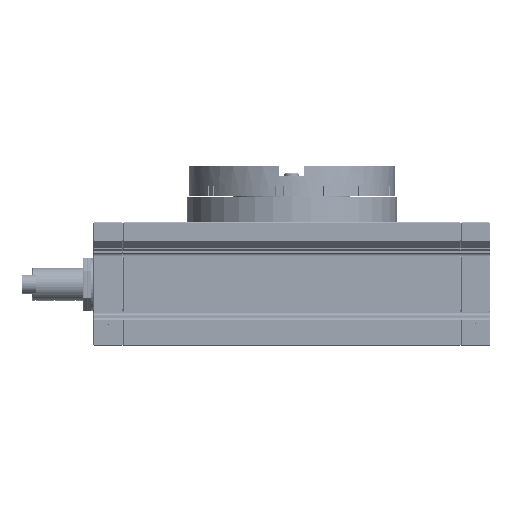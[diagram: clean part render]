
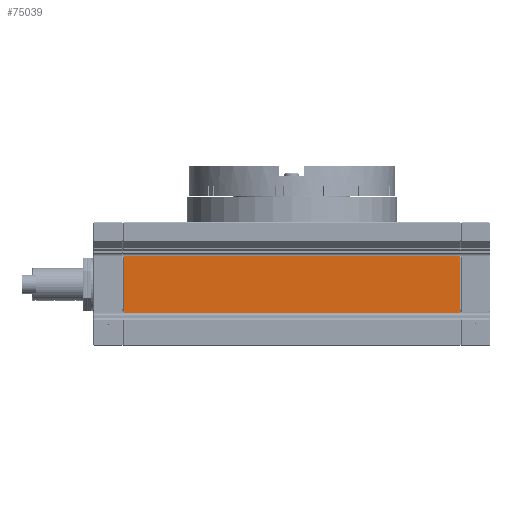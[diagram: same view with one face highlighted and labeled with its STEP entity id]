
A CAD part, front view. The second image highlights one B-rep face of the part: STEP entity #75039.
In plain terms, the highlighted planar face has unit normal (0, -1, 0).
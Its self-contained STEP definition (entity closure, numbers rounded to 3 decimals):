
#74976 = EDGE_LOOP ( 'NONE', ( #75045, #75085, #75083, #75076 ) ) ;
#75039 = ADVANCED_FACE ( 'NONE', ( #175203 ), #175208, .F. ) ;
#75045 = ORIENTED_EDGE ( 'NONE', *, *, #75074, .T. ) ;
#75074 = EDGE_CURVE ( 'NONE', #75078, #75082, #175256, .T. ) ;
#75076 = ORIENTED_EDGE ( 'NONE', *, *, #75093, .T. ) ;
#75078 = VERTEX_POINT ( 'NONE', #175246 ) ;
#75079 = VERTEX_POINT ( 'NONE', #175261 ) ;
#75082 = VERTEX_POINT ( 'NONE', #175248 ) ;
#75083 = ORIENTED_EDGE ( 'NONE', *, *, #75086, .F. ) ;
#75085 = ORIENTED_EDGE ( 'NONE', *, *, #75087, .T. ) ;
#75086 = EDGE_CURVE ( 'NONE', #75089, #75079, #175303, .T. ) ;
#75087 = EDGE_CURVE ( 'NONE', #75082, #75079, #175284, .T. ) ;
#75089 = VERTEX_POINT ( 'NONE', #175247 ) ;
#75093 = EDGE_CURVE ( 'NONE', #75089, #75078, #175343, .T. ) ;
#175186 = DIRECTION ( 'NONE',  ( 0., 0., 1. ) ) ;
#175190 = AXIS2_PLACEMENT_3D ( 'NONE', #175206, #175209, #175186 ) ;
#175203 = FACE_OUTER_BOUND ( 'NONE', #74976, .T. ) ;
#175206 = CARTESIAN_POINT ( 'NONE',  ( 161., 3.5, 46.8 ) ) ;
#175208 = PLANE ( 'NONE',  #175190 ) ;
#175209 = DIRECTION ( 'NONE',  ( 0., 1., 0. ) ) ;
#175246 = CARTESIAN_POINT ( 'NONE',  ( 0.5, 3.5, 16. ) ) ;
#175247 = CARTESIAN_POINT ( 'NONE',  ( 0.5, 3.5, 43. ) ) ;
#175248 = CARTESIAN_POINT ( 'NONE',  ( 160.5, 3.5, 16. ) ) ;
#175253 = DIRECTION ( 'NONE',  ( 1., 0., 0. ) ) ;
#175254 = VECTOR ( 'NONE', #175253, 1000. ) ;
#175255 = CARTESIAN_POINT ( 'NONE',  ( 0., 3.5, 16. ) ) ;
#175256 = LINE ( 'NONE', #175255, #175254 ) ;
#175261 = CARTESIAN_POINT ( 'NONE',  ( 160.5, 3.5, 43. ) ) ;
#175281 = DIRECTION ( 'NONE',  ( 0., 0., 1. ) ) ;
#175282 = VECTOR ( 'NONE', #175281, 1000. ) ;
#175283 = CARTESIAN_POINT ( 'NONE',  ( 160.5, 3.5, 46.8 ) ) ;
#175284 = LINE ( 'NONE', #175283, #175282 ) ;
#175300 = DIRECTION ( 'NONE',  ( 1., 0., 0. ) ) ;
#175301 = VECTOR ( 'NONE', #175300, 1000. ) ;
#175302 = CARTESIAN_POINT ( 'NONE',  ( 0., 3.5, 43. ) ) ;
#175303 = LINE ( 'NONE', #175302, #175301 ) ;
#175334 = VECTOR ( 'NONE', #175341, 1000. ) ;
#175341 = DIRECTION ( 'NONE',  ( 0., 0., -1. ) ) ;
#175342 = CARTESIAN_POINT ( 'NONE',  ( 0.5, 3.5, 46.8 ) ) ;
#175343 = LINE ( 'NONE', #175342, #175334 ) ;
